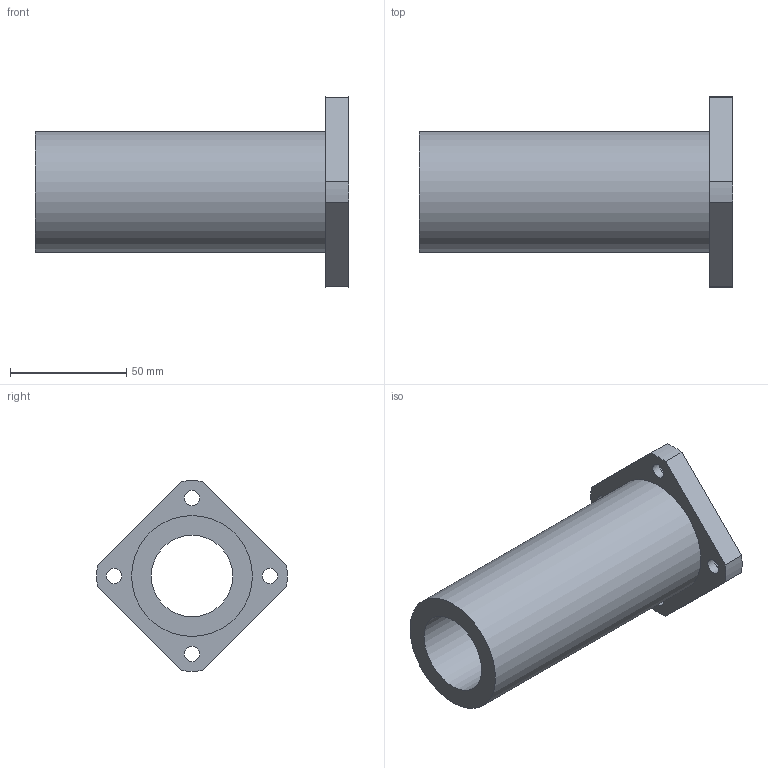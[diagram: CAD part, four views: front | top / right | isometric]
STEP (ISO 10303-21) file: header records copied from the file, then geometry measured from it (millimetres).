
FILE_DESCRIPTION(/* description */ ('Unknown'),/* implementation_level */ '2;1');
FILE_NAME(/* name */ 'LMK35LUU',/* time_stamp */ '2025-02-04T10:47:01+08:00',/* author */ ('Unknown'),/* organization */ ('Unknown'),/* preprocessor_version */ 'ST-DEVELOPER v18.102',/* originating_system */ 'Solid Edge',/* authorisation */ 'Unknown');
FILE_SCHEMA (('AUTOMOTIVE_DESIGN {1 0 10303 214 3 1 1}'));
Length unit declared in the file: millimetre
Products named in the file (1): LMK35LUU
Bounding box: 135 x 81.94 x 81.94 mm (x, y, z)
Volume: 172935.4 mm3; surface area: 44686.3 mm2
Topology: 1 solids, 1 shells, 25 faces, 54 edges, 36 vertices
Faces by surface type: cylinder 14, plane 11
Full cylindrical faces by diameter (mm): 6.6 x4, 11 x4, 35 x1, 52 x1
Entity records: 696 total; most frequent: DIRECTION 124, CARTESIAN_POINT 106, ORIENTED_EDGE 88, AXIS2_PLACEMENT_3D 54, EDGE_LOOP 50, FACE_BOUND 50, EDGE_CURVE 44, VERTEX_POINT 36
